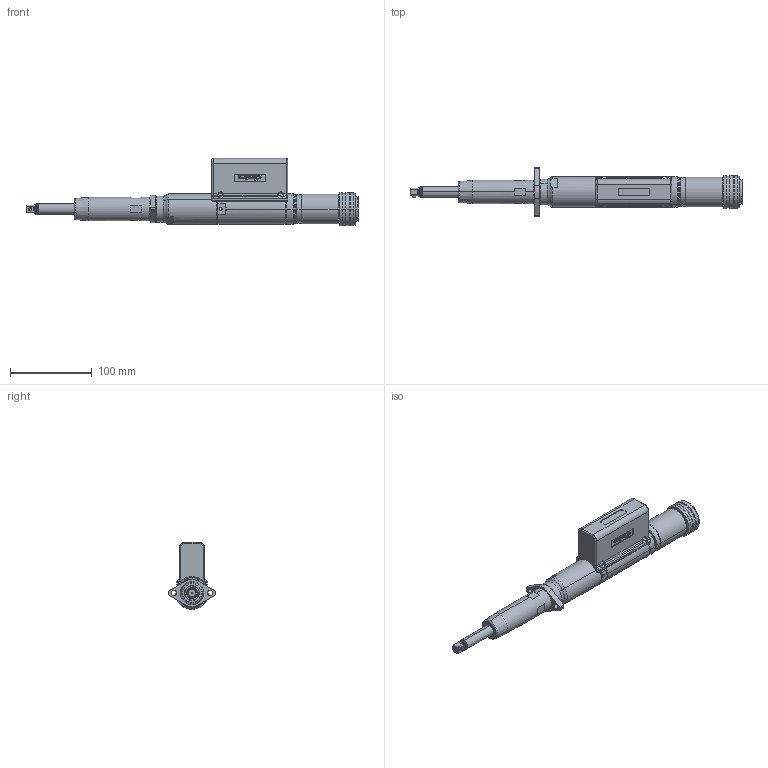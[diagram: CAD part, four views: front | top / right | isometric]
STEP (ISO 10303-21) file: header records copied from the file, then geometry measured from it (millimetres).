
FILE_DESCRIPTION (( 'STEP AP203' ), '1' );
FILE_NAME ('AEF4C12011B, AEF4C12014B, AEF4C12018B, AEF4C12022B.STEP', '2012-06-11T23:33:27', ( 'AIMCO' ), ( 'Microsoft' ), 'SwSTEP 2.0', 'SolidWorks 2012', '' );
FILE_SCHEMA (( 'CONFIG_CONTROL_DESIGN' ));
Length unit declared in the file: inch
Products named in the file (1): AEF4C12011B, AEF4C12014B, AEF4C12018B, AEF4C12022B
Bounding box: 406.11 x 58.71 x 82.09 mm (x, y, z)
Surface area: 70078.8 mm2 (no closed solid volume)
Topology: 0 solids, 79 shells, 693 faces, 3179 edges, 2546 vertices
Faces by surface type: plane 345, cylinder 189, torus 86, cone 66, sphere 4, bspline 3
Entity records: 33658 total; most frequent: CARTESIAN_POINT 8689, DIRECTION 5069, ORIENTED_EDGE 4319, EDGE_CURVE 3171, VERTEX_POINT 2542, LINE 2297, VECTOR 2297, AXIS2_PLACEMENT_3D 1386
